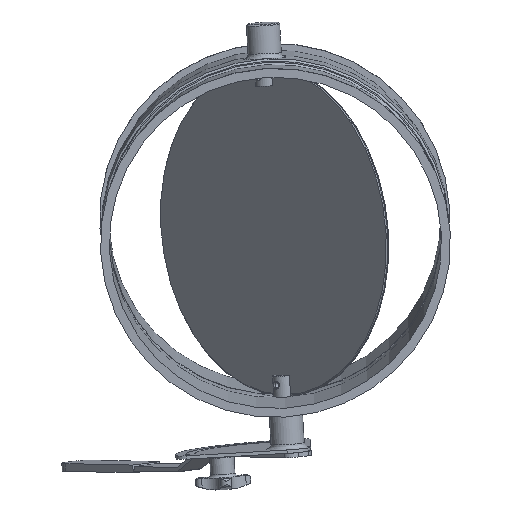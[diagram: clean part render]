
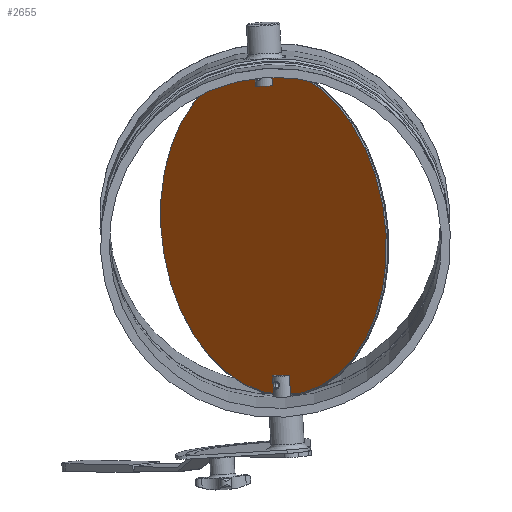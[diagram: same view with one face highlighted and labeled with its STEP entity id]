
A CAD part, front view. The second image highlights one B-rep face of the part: STEP entity #2655.
In plain terms, the highlighted planar face has unit normal (-0.729, -0.678, -0.094) as drawn and (0, 0, -1) by its records, which use the part's own axes.
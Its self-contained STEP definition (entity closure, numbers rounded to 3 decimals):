
#2613=CARTESIAN_POINT('',(241.557,0.,0.0));
#2614=VERTEX_POINT('',#2613);
#2615=CARTESIAN_POINT('',(93.057,0.,0.0));
#2616=DIRECTION('',(0.0,0.0,1.0));
#2617=DIRECTION('',(-1.0,0.0,0.0));
#2618=AXIS2_PLACEMENT_3D('',#2615,#2616,#2617);
#2619=CIRCLE('',#2618,148.5);
#2620=EDGE_CURVE('',#2614,#2614,#2619,.T.);
#2625=CARTESIAN_POINT('',(93.057,0.,0.0));
#2626=DIRECTION('',(0.0,0.0,-1.0));
#2627=DIRECTION('',(-1.0,0.0,0.0));
#2628=AXIS2_PLACEMENT_3D('',#2625,#2626,#2627);
#2629=PLANE('',#2628);
#2630=ORIENTED_EDGE('',*,*,#2620,.F.);
#2631=EDGE_LOOP('',(#2630));
#2632=FACE_OUTER_BOUND('',#2631,.T.);
#2633=CARTESIAN_POINT('',(-42.943,0.,0.0));
#2634=VERTEX_POINT('',#2633);
#2635=CARTESIAN_POINT('',(-45.943,0.,0.0));
#2636=DIRECTION('',(0.0,0.0,1.0));
#2637=DIRECTION('',(-1.0,0.0,0.0));
#2638=AXIS2_PLACEMENT_3D('',#2635,#2636,#2637);
#2639=CIRCLE('',#2638,3.);
#2640=EDGE_CURVE('',#2634,#2634,#2639,.T.);
#2641=ORIENTED_EDGE('',*,*,#2640,.T.);
#2642=EDGE_LOOP('',(#2641));
#2643=FACE_BOUND('',#2642,.T.);
#2644=CARTESIAN_POINT('',(235.057,0.,0.0));
#2645=VERTEX_POINT('',#2644);
#2646=CARTESIAN_POINT('',(232.057,0.,0.0));
#2647=DIRECTION('',(0.0,0.0,1.0));
#2648=DIRECTION('',(-1.0,0.0,0.0));
#2649=AXIS2_PLACEMENT_3D('',#2646,#2647,#2648);
#2650=CIRCLE('',#2649,3.);
#2651=EDGE_CURVE('',#2645,#2645,#2650,.T.);
#2652=ORIENTED_EDGE('',*,*,#2651,.T.);
#2653=EDGE_LOOP('',(#2652));
#2654=FACE_BOUND('',#2653,.T.);
#2655=ADVANCED_FACE('',(#2632,#2643,#2654),#2629,.T.);
